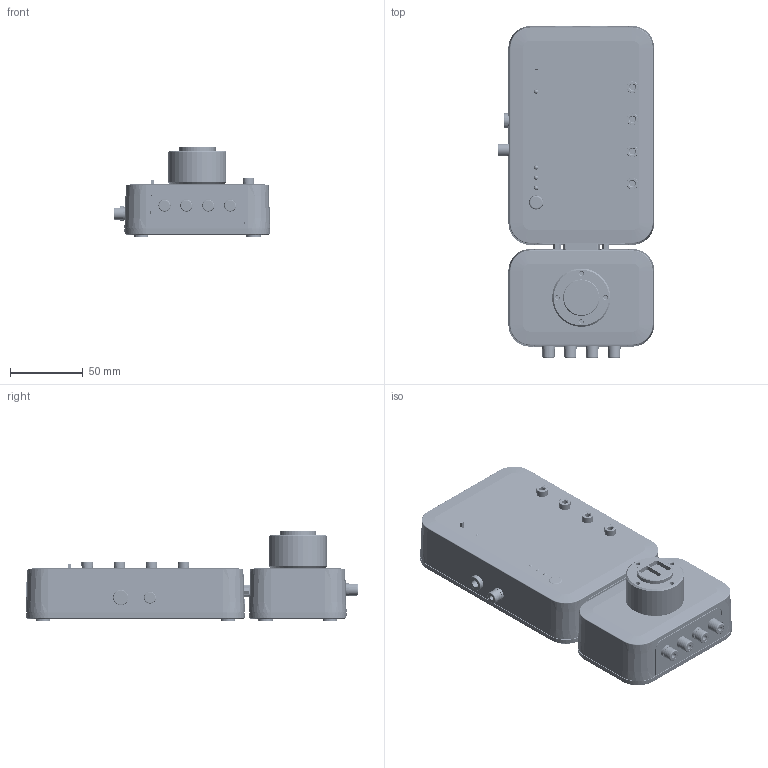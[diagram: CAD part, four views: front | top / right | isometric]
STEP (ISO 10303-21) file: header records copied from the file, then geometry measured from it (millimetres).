
FILE_DESCRIPTION((''),'2;1');
FILE_NAME('AECG100_ASM_4RCA_191224','2021-08-17T',('Owen Wang'),(''),'PRO/ENGINEER BY PARAMETRIC TECHNOLOGY CORPORATION, 2014090','PRO/ENGINEER BY PARAMETRIC TECHNOLOGY CORPORATION, 2014090','');
FILE_SCHEMA(('CONFIG_CONTROL_DESIGN'));
Products named in the file (1): AECG100_ASM_4RCA_191224
Bounding box: 107.3 x 227.6 x 62.2 mm (x, y, z)
Surface area: 177674 mm2 (no closed solid volume)
Topology: 0 solids, 40 shells, 4797 faces, 12816 edges, 8292 vertices
Faces by surface type: plane 2153, cylinder 1188, cone 484, torus 455, sphere 180, bspline 167, extrusion 160, revolution 10
Entity records: 160250 total; most frequent: CARTESIAN_POINT 42209, ORIENTED_EDGE 25158, DIRECTION 23859, EDGE_CURVE 12636, AXIS2_PLACEMENT_3D 8768, VERTEX_POINT 8294, VECTOR 6313, LINE 6153
